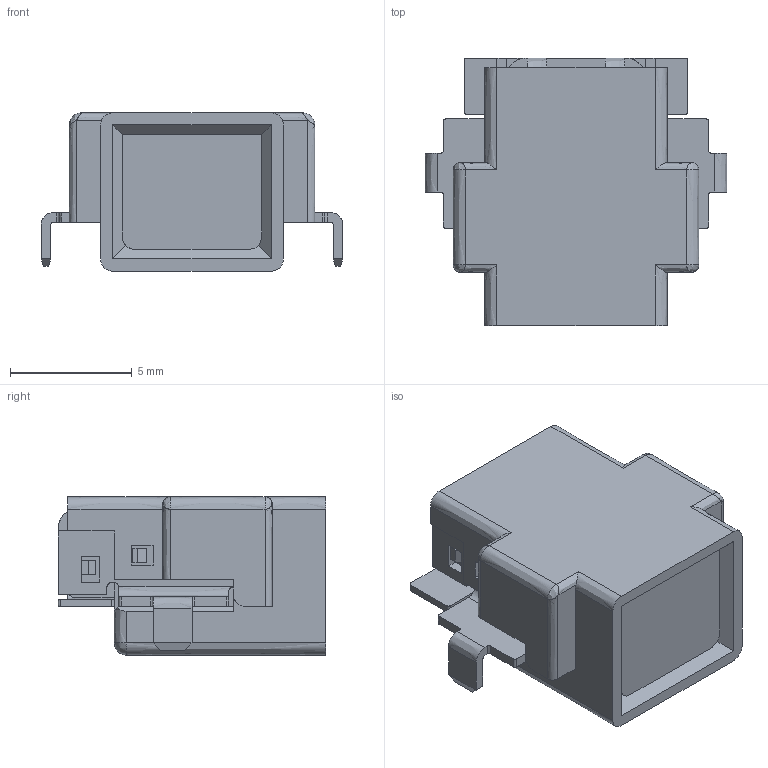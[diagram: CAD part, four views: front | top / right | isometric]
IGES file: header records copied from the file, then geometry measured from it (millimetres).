
Start section:  PTC IGES file: crs5001-3202f.igs
Global section: file name: crs5001-3202f.igs; native system: Pro/ENGINEER by Parametric Technology Corporation; preprocessor: 2011220; author: en-yo; organization: Unknown; date: 20131107.142347; units: millimetre
Bounding box: 12.4 x 11 x 6.5 mm (x, y, z)
Volume: 509.1 mm3; surface area: 922.1 mm2
Topology: 1 solids, 1 shells, 370 faces, 1065 edges, 687 vertices
Faces by surface type: bspline 370
